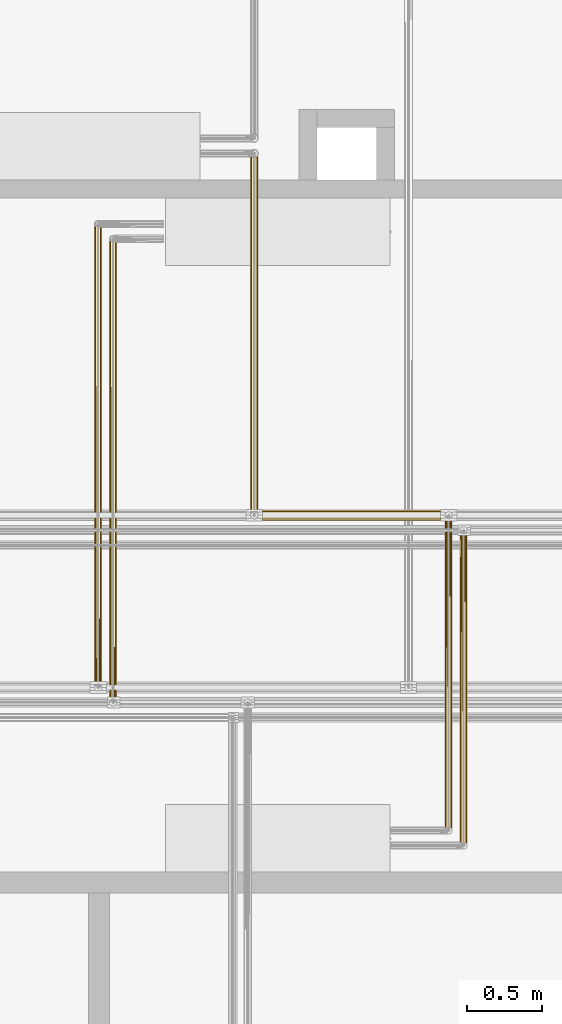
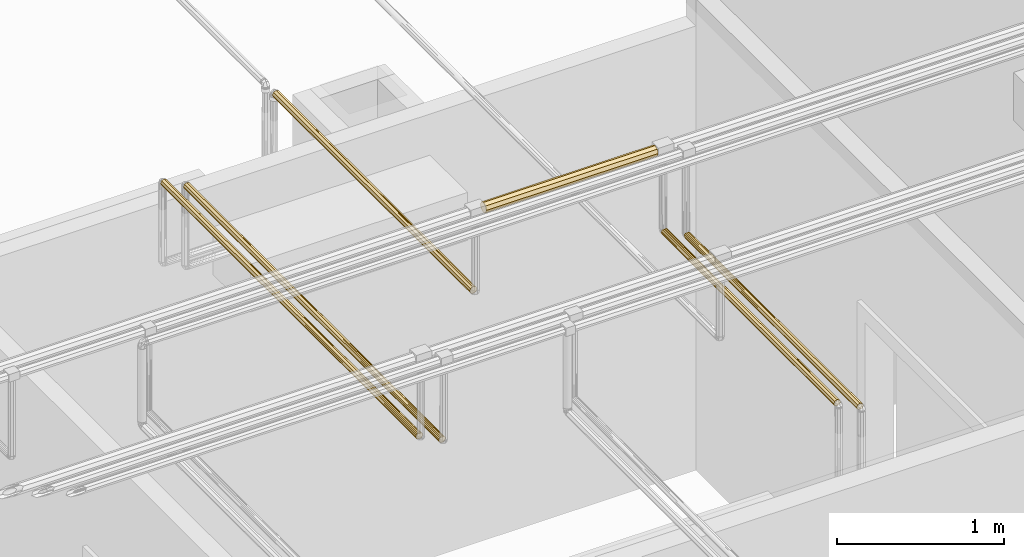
# One storey, part 93 of 652: 6 coverings.
"""IFC2X3 building model written with IfcOpenShell, lengths in millimetres."""

import ifcopenshell
import ifcopenshell.guid

model = None  # the IFC model being written
_history = None  # IfcOwnerHistory: only IFC2X3 demands one
_inside = {}  # id of a spatial element -> (the spatial element, [elements in it])
_under = {}  # id of a project, library or spatial element -> (it, [spatial elements below it])
_declared = {}  # id of a project -> (the project, [libraries it declares])
_typed = {}  # id of a type object -> (the type object, [elements of that type])
_made_of = {}  # id of a material, layer set ... -> (it, [elements and type objects made of it])


def new_model(schema):
    """Start an empty IFC model of exactly this schema.

    Asked for "IFC4X3", IfcOpenShell would pick the latest addendum, in which some entities
    have other attributes; the version numbers below select the first issue.
    IFC2X3 requires an IfcOwnerHistory on every rooted entity: one is made here for all.
    """
    global model, _history
    if schema == "IFC4X3":
        model = ifcopenshell.file(schema_version=(4, 3, 0, 0))
    else:
        model = ifcopenshell.file(schema=schema)
    _inside.clear()
    _under.clear()
    _declared.clear()
    _typed.clear()
    _made_of.clear()
    _history = None
    if model.schema == "IFC2X3":
        org = make("IfcOrganization", Name="unknown")
        user = make(
            "IfcPersonAndOrganization",
            ThePerson=make("IfcPerson", FamilyName="unknown"),
            TheOrganization=org,
        )
        app = make(
            "IfcApplication",
            ApplicationDeveloper=org,
            Version="unknown",
            ApplicationFullName="unknown",
            ApplicationIdentifier="unknown",
        )
        _history = make(
            "IfcOwnerHistory",
            OwningUser=user,
            OwningApplication=app,
            ChangeAction="ADDED",
            CreationDate=0,
        )
    return model


def make(cls, **values):
    """One entity of the class cls with the attributes given. An attribute that is None is left unset."""
    return model.create_entity(
        cls, **{name: value for name, value in values.items() if value is not None}
    )


def entity(cls, *values):
    """Any entity or typed value of the class cls, its attributes in the order of the schema. None: left unset."""
    e = model.create_entity(cls)
    for i, value in enumerate(values):
        if value is not None:
            e[i] = value
    return e


def rooted(cls, **values):
    """An entity with a GlobalId (a new one), such as an element, a storey or a relation."""
    return make(cls, GlobalId=ifcopenshell.guid.new(), OwnerHistory=_history, **values)


def si_unit(unit_type, name, prefix=None):
    """IfcSIUnit, for example si_unit("LENGTHUNIT", "METRE", prefix="MILLI")."""
    return make("IfcSIUnit", UnitType=unit_type, Prefix=prefix, Name=name)


def converted_unit(unit_type, name, factor, base, dimensions=None, offset=None):
    """IfcConversionBasedUnit, such as the inch: factor (a typed value) times the base unit."""
    return make(
        "IfcConversionBasedUnit"
        if offset is None
        else "IfcConversionBasedUnitWithOffset",
        ConversionOffset=offset,
        Dimensions=None
        if dimensions is None
        else entity("IfcDimensionalExponents", *dimensions),
        UnitType=unit_type,
        Name=name,
        ConversionFactor=make(
            "IfcMeasureWithUnit", ValueComponent=factor, UnitComponent=base
        ),
    )


def assignment(units):
    """IfcUnitAssignment: the units of a project."""
    return None if units is None else make("IfcUnitAssignment", Units=units)


def point(xyz):
    """IfcCartesianPoint."""
    return None if xyz is None else make("IfcCartesianPoint", Coordinates=xyz)


def direction(xyz):
    """IfcDirection."""
    return None if xyz is None else make("IfcDirection", DirectionRatios=xyz)


def frame(location, z_axis=None, x_axis=None):
    """IfcAxis2Placement3D, a coordinate frame: its origin and axes. An axis left out is left unset."""
    return make(
        "IfcAxis2Placement3D",
        Location=point(location),
        Axis=direction(z_axis),
        RefDirection=direction(x_axis),
    )


def origin():
    """The frame at (0, 0, 0) with its axes left unset."""
    return frame((0.0, 0.0, 0.0))


def place(relative_to, where):
    """IfcLocalPlacement: puts the frame where relative to a parent placement (None: the world)."""
    return make(
        "IfcLocalPlacement", PlacementRelTo=relative_to, RelativePlacement=where
    )


def context(
    kind, dimensions, precision=None, world=None, true_north=None, identifier=None
):
    """IfcGeometricRepresentationContext, for example the 3D "Model" context."""
    return make(
        "IfcGeometricRepresentationContext",
        ContextIdentifier=identifier,
        ContextType=kind,
        CoordinateSpaceDimension=dimensions,
        Precision=precision,
        WorldCoordinateSystem=world,
        TrueNorth=true_north,
    )


def subcontext(parent, identifier, kind, view, scale=None):
    """IfcGeometricRepresentationSubContext, for example "Body" below "Model"."""
    return make(
        "IfcGeometricRepresentationSubContext",
        ContextIdentifier=identifier,
        ContextType=kind,
        ParentContext=parent,
        TargetScale=scale,
        TargetView=view,
    )


def project(units=None, contexts=None):
    """IfcProject with its units and contexts."""
    return rooted(
        "IfcProject",
        Name="project",
        RepresentationContexts=contexts,
        UnitsInContext=assignment(units),
    )


def spatial(cls, under=None, at=None, **own):
    """A site, building, storey or space (cls), placed at a placement, below another one or the project."""
    s = rooted(cls, ObjectPlacement=at, **own)
    if under is not None:
        _under.setdefault(under.id(), (under, []))[1].append(s)
    return s


def faces_of(points, faces, orient=None, outer=None):
    """IfcFace entities. A face is a list of loops; a loop is a list of indices into points, from 0.

    orient and outer hold one flag for each loop. By default every Orientation is true, the
    first loop of a face is its IfcFaceOuterBound and the others are IfcFaceBound.
    """
    made = []
    for i, loops in enumerate(faces):
        bounds = []
        for j, loop in enumerate(loops):
            is_outer = j == 0 if outer is None else outer[i][j]
            bounds.append(
                make(
                    "IfcFaceOuterBound" if is_outer else "IfcFaceBound",
                    Bound=make("IfcPolyLoop", Polygon=[points[k] for k in loop]),
                    Orientation=True if orient is None else orient[i][j],
                )
            )
        made.append(make("IfcFace", Bounds=bounds))
    return made


def faceted_brep(points, faces, orient=None, outer=None, voids=None):
    """IfcFacetedBrep: a solid bounded by flat faces; with voids (closed shells), ...WithVoids."""
    shared = [point(p) for p in points]
    hull = make("IfcClosedShell", CfsFaces=faces_of(shared, faces, orient, outer))
    if voids is None:
        return make("IfcFacetedBrep", Outer=hull)
    return make(
        "IfcFacetedBrepWithVoids",
        Outer=hull,
        Voids=[
            make(cls, CfsFaces=faces_of(shared, fs, o, b)) for cls, fs, o, b in voids
        ],
    )


def shape(context_of_items, identifier, shape_type, items):
    """IfcShapeRepresentation: the items that make up one representation, for example the "Body"."""
    return make(
        "IfcShapeRepresentation",
        ContextOfItems=context_of_items,
        RepresentationIdentifier=identifier,
        RepresentationType=shape_type,
        Items=items,
    )


def material(Name=None, Category=None):
    """IfcMaterial."""
    return make("IfcMaterial", Name=Name, Category=Category)


def made_of(thing, what):
    """Note that an element or type object is made of a material, layer set ...; save() writes the relation."""
    if what is not None:
        _made_of.setdefault(what.id(), (what, []))[1].append(thing)
    return thing


def type_object(cls, material=None, **own):
    """A type object (cls), such as IfcWallType, which elements share."""
    return made_of(rooted(cls, **own), material)


def element(
    cls,
    number,
    at=None,
    inside=None,
    cuts=None,
    type_object=None,
    material=None,
    context=None,
    identifier="Body",
    shape_type=None,
    held_by="IfcProductDefinitionShape",
    body=None,
    shapes=None,
    **own,
):
    """One element of the class cls, such as IfcWall. Its Tag is "e" and its number.

    at: its placement. inside: the storey or other place that contains it. cuts: it is an
    opening in that element (IfcRelVoidsElement). A single representation is given by context,
    identifier, shape_type and body (its items); several are given by shapes. held_by: the class
    of the entity that holds the representations. save() writes the other relations.
    """
    e = rooted(cls, Tag="e%d" % number, ObjectPlacement=at, **own)
    if body is not None:
        shapes = [shape(context, identifier, shape_type, body)]
    if shapes is not None:
        e.Representation = make(held_by, Representations=shapes)
    if inside is not None:
        _inside.setdefault(inside.id(), (inside, []))[1].append(e)
    if cuts is not None:
        rooted(
            "IfcRelVoidsElement", RelatingBuildingElement=cuts, RelatedOpeningElement=e
        )
    if type_object is not None:
        _typed.setdefault(type_object.id(), (type_object, []))[1].append(e)
    return made_of(e, material)


def aggregate(whole, parts):
    """IfcRelAggregates: a whole, such as a stair, and the parts it consists of."""
    return rooted("IfcRelAggregates", RelatingObject=whole, RelatedObjects=parts)


def save(model, path):
    """Write the relations noted so far, then the file.

    IfcRelAggregates (storeys below a building ...), IfcRelContainedInSpatialStructure (elements
    in a storey), IfcRelDefinesByType, IfcRelAssociatesMaterial and IfcRelDeclares: one each for
    every whole, place, type object, material and project.
    """
    for whole, parts in _under.values():
        aggregate(whole, parts)
    for where, things in _inside.values():
        rooted(
            "IfcRelContainedInSpatialStructure",
            RelatedElements=things,
            RelatingStructure=where,
        )
    for kind, things in _typed.values():
        rooted("IfcRelDefinesByType", RelatedObjects=things, RelatingType=kind)
    for what, things in _made_of.values():
        rooted("IfcRelAssociatesMaterial", RelatedObjects=things, RelatingMaterial=what)
    for by, libraries in _declared.values():
        rooted("IfcRelDeclares", RelatingContext=by, RelatedDefinitions=libraries)
    model.write(path)


model = new_model("IFC2X3")

# Units and contexts
model_context = context("Model", 3, precision=0.01, world=frame((0.0, 0.0, 308426.39999999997)), true_north=direction((6.123233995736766e-17, 1.0)))
plan_context = context("Plan", 3, precision=0.01, world=frame((0.0, 0.0, 308426.39999999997)), true_north=direction((6.123233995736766e-17, 1.0)))
body_context = subcontext(model_context, "Body", "Model", "MODEL_VIEW")
ifc_project = project(units=[si_unit("LENGTHUNIT", "METRE", prefix="MILLI"), si_unit("AREAUNIT", "SQUARE_METRE"), si_unit("VOLUMEUNIT", "CUBIC_METRE"), converted_unit("PLANEANGLEUNIT", "DEGREE", entity("IfcPlaneAngleMeasure", 0.017453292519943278), si_unit("PLANEANGLEUNIT", "RADIAN"), dimensions=[0, 0, 0, 0, 0, 0, 0])], contexts=[model_context, plan_context])

# Site, building, storey
site_placement = place(None, origin())
site = spatial("IfcSite", under=ifc_project, at=site_placement, Name="Default", CompositionType="ELEMENT")
building_placement = place(site_placement, origin())
building = spatial("IfcBuilding", under=site, at=building_placement, CompositionType="ELEMENT")
storey_placement = place(building_placement, frame((0.0, 0.0, 1730.6999999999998)))
storey = spatial("IfcBuildingStorey", under=building, at=storey_placement, Name="EG_Produktion_FFB", CompositionType="ELEMENT", Elevation=1730.6999999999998)

# Coverings
ifc_material = material(Name="Dämmung - Armaflex-Schlauch")
covering_type = type_object("IfcCoveringType", Name="Rohrdämmung außen:Armaflex-Schlauch", PredefinedType="INSULATION")
covering_1_placement = place(storey_placement, frame((28186.759683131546, 61061.94222776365, 3861.942227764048)))
element("IfcCovering", 1, at=covering_1_placement, inside=storey, type_object=covering_type, material=ifc_material, Name="Rohrdämmung außen:Armaflex-Schlauch", ObjectType="Rohrdämmung außen:Armaflex-Schlauch", PredefinedType="INSULATION", context=body_context, shape_type="Brep", body=[
    faceted_brep([(1188.793066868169, 74.52027223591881, 38.057772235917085), (1188.793066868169, 71.15292682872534, 46.18726318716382), (1188.793066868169, 69.18046274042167, 50.949212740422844), (1188.7930668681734, 66.51055799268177, 57.39493299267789), (1188.7930668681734, 63.8406532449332, 63.84065324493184), (1188.7930668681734, 57.394932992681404, 66.51055799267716), (1188.7930668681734, 50.94921274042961, 69.18046274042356), (1188.7930668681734, 44.50349248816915, 71.85036748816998), (1188.7930668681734, 38.057772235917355, 74.52027223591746), (1188.7930668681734, 29.928281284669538, 71.15292682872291), (1188.7930668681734, 25.166331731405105, 69.18046274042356), (1188.7930668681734, 18.72061147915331, 66.51055799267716), (1188.7930668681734, 12.274891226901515, 63.84065324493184), (1188.7930668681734, 9.604986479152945, 57.39493299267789), (1188.7930668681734, 6.935081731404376, 50.949212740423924), (1188.7930668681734, 4.265176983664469, 44.50349248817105), (1188.793066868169, 1.5952722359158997, 38.057772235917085), (1188.7930668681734, 4.265176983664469, 31.612051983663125), (1188.793066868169, 6.935081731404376, 25.166331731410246), (1188.7930668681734, 9.604986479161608, 18.72061147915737), (1188.793066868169, 12.274891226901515, 12.274891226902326), (1188.793066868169, 18.72061147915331, 9.604986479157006), (1188.7930668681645, 25.166331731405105, 6.935081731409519), (1188.793066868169, 31.612051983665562, 4.265176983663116), (1188.793066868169, 38.057772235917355, 1.595272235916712), (1188.793066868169, 46.1872631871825, 4.962617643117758), (1188.793066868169, 50.94921274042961, 6.935081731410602), (1188.7930668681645, 57.394932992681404, 9.604986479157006), (1188.793066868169, 63.8406532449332, 12.274891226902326), (1188.793066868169, 66.51055799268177, 18.720611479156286), (1188.793066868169, 69.18046274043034, 25.166331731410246), (1188.7930668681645, 71.85036748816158, 31.612051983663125), (0.0, 57.39493299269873, 9.60498647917), (0.0, 50.94921274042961, 6.935081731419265), (0.0, 44.50349248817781, 4.265176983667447), (0.0, 38.057772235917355, 1.5952722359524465), (0.0, 29.9282812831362, 4.962617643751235), (0.0, 21.798790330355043, 8.32996305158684), (0.0, 12.274891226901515, 12.274891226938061), (0.0, 9.604986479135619, 18.720611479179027), (0.0, 6.935081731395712, 25.166331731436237), (0.0, 4.265176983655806, 31.612051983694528), (0.0, 1.5952722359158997, 38.05777223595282), (0.0, 4.962617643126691, 46.18726318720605), (0.0, 8.32996305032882, 54.3167541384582), (0.0, 12.274891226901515, 63.84065324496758), (0.0, 18.720611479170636, 66.51055799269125), (0.0, 25.166331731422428, 69.18046274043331), (0.0, 31.612051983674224, 71.8503674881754), (0.0, 38.057772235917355, 74.5202722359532), (0.0, 46.187263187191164, 71.15292682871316), (0.0, 54.316754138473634, 67.78558142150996), (0.0, 63.8406532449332, 63.84065324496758), (0.0, 66.51055799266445, 57.394932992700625), (0.0, 69.180462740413, 50.949212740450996), (0.0, 71.85036748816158, 44.50349248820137), (0.0, 74.52027223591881, 38.05777223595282), (0.0, 71.15292682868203, 29.928281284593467), (0.0, 67.78558142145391, 21.798790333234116), (0.0, 63.8406532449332, 12.274891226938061)], [[[0, 1, 2, 3, 4, 5, 6, 7, 8, 9, 10, 11, 12, 13, 14, 15, 16, 17, 18, 19, 20, 21, 22, 23, 24, 25, 26, 27, 28, 29, 30, 31]], [[32, 33, 34, 35, 36, 37, 38, 39, 40, 41, 42, 43, 44, 45, 46, 47, 48, 49, 50, 51, 52, 53, 54, 55, 56, 57, 58, 59]], [[40, 39, 38, 20, 19, 18, 17, 16, 42, 41]], [[38, 37, 36, 35, 24, 23, 22, 21, 20]], [[56, 0, 31, 30, 29, 28, 59, 58, 57]], [[27, 26, 25, 24, 35, 34, 33, 32, 59, 28]], [[49, 8, 7, 6, 5, 4, 52, 51, 50]], [[3, 2, 1, 0, 56, 55, 54, 53, 52, 4]], [[42, 16, 15, 14, 13, 12, 45, 44, 43]], [[11, 10, 9, 8, 49, 48, 47, 46, 45, 12]]]),
])
covering_2_placement = place(storey_placement, frame((29504.64222776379, 58911.64206831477, 3274.6422277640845)))
element("IfcCovering", 2, at=covering_2_placement, inside=storey, type_object=covering_type, material=ifc_material, Name="Rohrdämmung außen:Armaflex-Schlauch", ObjectType="Rohrdämmung außen:Armaflex-Schlauch", PredefinedType="INSULATION", context=body_context, shape_type="Brep", body=[
    faceted_brep([(40.92841548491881, 2070.4076816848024, 43.30802223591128), (43.95116498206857, 2070.4076816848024, 39.26743877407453), (46.97391447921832, 2070.4076816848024, 35.2268553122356), (48.04709335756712, 2070.4076816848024, 30.292313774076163), (49.12027223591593, 2070.4076816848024, 25.35777223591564), (47.38030345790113, 2070.4076816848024, 21.157116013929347), (45.64033467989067, 2070.4076816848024, 16.956459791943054), (43.900365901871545, 2070.4076816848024, 12.755803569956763), (42.16039712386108, 2070.4076816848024, 8.55514734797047), (37.95974090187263, 2070.4076816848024, 6.8151785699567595), (33.759084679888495, 2070.4076816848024, 5.075209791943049), (29.55842845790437, 2070.407681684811, 3.335241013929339), (25.357772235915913, 2070.4076816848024, 1.595272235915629), (21.157116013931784, 2070.4076816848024, 3.335241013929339), (16.956459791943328, 2070.4076816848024, 5.075209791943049), (12.755803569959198, 2070.4076816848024, 6.8151785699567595), (8.55514734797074, 2070.4076816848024, 8.55514734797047), (6.815178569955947, 2070.4076816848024, 12.755803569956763), (5.0752097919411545, 2070.4076816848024, 16.956459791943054), (3.6312420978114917, 2070.4076816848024, 20.44250618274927), (1.5952722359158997, 2070.4076816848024, 25.35777223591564), (2.6684511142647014, 2070.4076816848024, 30.292313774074), (3.7416299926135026, 2070.4076816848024, 35.22685531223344), (6.764379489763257, 2070.4076816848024, 39.26743877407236), (9.787128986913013, 2070.4076816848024, 43.30802223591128), (9.787128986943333, 1.5952722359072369, 7.407522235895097), (40.92841548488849, 1.5952722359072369, 7.407522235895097), (43.95116498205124, 1.5952722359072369, 11.448105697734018), (46.97391447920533, 1.5952722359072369, 15.488689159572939), (48.047093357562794, 1.5952722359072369, 20.423230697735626), (49.12027223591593, 1.5952722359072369, 25.357772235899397), (47.08430237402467, 1.5952722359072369, 30.273038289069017), (45.64033467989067, 1.5952722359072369, 33.75908467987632), (43.90036590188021, 1.5952722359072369, 37.95974090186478), (42.16039712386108, 1.5952722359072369, 42.16039712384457), (37.95974090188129, 1.5952722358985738, 43.90036590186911), (33.75908467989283, 1.5952722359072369, 45.6403346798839), (29.55842845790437, 1.5952722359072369, 47.38030345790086), (25.357772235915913, 1.5952722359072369, 49.120272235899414), (21.157116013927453, 1.5952722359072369, 47.38030345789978), (16.956459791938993, 1.5952722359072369, 45.6403346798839), (12.755803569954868, 1.5952722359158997, 43.90036590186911), (8.55514734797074, 1.5952722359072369, 42.16039712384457), (6.815178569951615, 1.5952722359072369, 37.95974090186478), (5.0752097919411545, 1.5952722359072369, 33.75908467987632), (3.3352410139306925, 1.5952722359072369, 29.558428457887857), (1.5952722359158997, 1.5952722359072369, 25.357772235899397), (2.6684511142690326, 1.5952722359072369, 20.423230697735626), (3.7416299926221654, 1.5952722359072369, 15.488689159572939), (6.764379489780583, 1.5952722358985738, 11.448105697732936), (33.667814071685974, 5.907088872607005, 3.0957055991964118), (37.2981147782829, 3.7511805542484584, 5.251613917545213), (29.512793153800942, 6.65730555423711, 2.345488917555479), (25.357772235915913, 7.40752223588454, 1.595272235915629), (21.20275131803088, 6.657305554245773, 2.345488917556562), (17.04773040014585, 5.907088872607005, 3.0957055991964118), (13.417429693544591, 3.7511805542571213, 5.251613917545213), (21.20275131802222, 2065.3456483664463, 48.370055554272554), (13.417429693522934, 2068.2517733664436, 45.46393055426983), (17.047730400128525, 2066.095865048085, 47.61983887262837), (25.357772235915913, 2064.5954316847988, 49.12027223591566), (29.512793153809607, 2065.3456483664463, 48.370055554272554), (33.6678140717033, 2066.095865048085, 47.61983887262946), (37.29811477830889, 2068.2517733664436, 45.46393055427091)], [[[0, 1, 2, 3, 4, 5, 6, 7, 8, 9, 10, 11, 12, 13, 14, 15, 16, 17, 18, 19, 20, 21, 22, 23, 24]], [[25, 26, 27, 28, 29, 30, 31, 32, 33, 34, 35, 36, 37, 38, 39, 40, 41, 42, 43, 44, 45, 46, 47, 48, 49]], [[30, 5, 4]], [[10, 50, 11]], [[5, 30, 29]], [[29, 6, 5]], [[26, 8, 27]], [[9, 26, 51]], [[51, 50, 10]], [[52, 53, 12]], [[28, 27, 7]], [[27, 8, 7]], [[28, 7, 6]], [[11, 50, 52]], [[8, 26, 9]], [[29, 28, 6]], [[51, 10, 9]], [[52, 12, 11]], [[53, 54, 12]], [[46, 20, 47]], [[13, 54, 55]], [[48, 17, 49]], [[56, 14, 55]], [[16, 25, 49]], [[48, 47, 18]], [[18, 47, 20, 19]], [[12, 54, 13]], [[49, 17, 16]], [[48, 18, 17]], [[14, 56, 15]], [[25, 15, 56]], [[13, 55, 14]], [[15, 25, 16]], [[23, 43, 42]], [[46, 45, 20]], [[44, 22, 21]], [[44, 43, 22]], [[38, 57, 39]], [[24, 41, 58]], [[59, 40, 39]], [[21, 45, 44]], [[40, 59, 58]], [[22, 43, 23]], [[57, 59, 39]], [[20, 45, 21]], [[42, 24, 23]], [[60, 57, 38]], [[41, 24, 42]], [[41, 40, 58]], [[38, 61, 60]], [[3, 32, 31, 30]], [[61, 38, 37]], [[62, 36, 63]], [[1, 34, 33]], [[34, 1, 0]], [[32, 3, 2]], [[0, 35, 34]], [[36, 62, 37]], [[0, 63, 35]], [[33, 2, 1]], [[33, 32, 2]], [[37, 62, 61]], [[30, 4, 3]], [[63, 36, 35]], [[0, 24, 58, 59, 57, 60, 61, 62, 63]], [[26, 25, 56, 55, 54, 53, 52, 50, 51]]]),
])
covering_3_placement = place(storey_placement, frame((27164.642227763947, 59866.35497775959, 3274.6422277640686)))
element("IfcCovering", 3, at=covering_3_placement, inside=storey, type_object=covering_type, material=ifc_material, Name="Rohrdämmung außen:Armaflex-Schlauch", ObjectType="Rohrdämmung außen:Armaflex-Schlauch", PredefinedType="INSULATION", context=body_context, shape_type="Brep", body=[
    faceted_brep([(3.7416299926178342, 1.5952722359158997, 35.22685531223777), (2.6684511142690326, 1.5952722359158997, 30.29231377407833), (1.5952722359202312, 1.5952722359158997, 25.357772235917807), (3.335241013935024, 1.5952722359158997, 21.157116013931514), (5.075209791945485, 1.5952722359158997, 16.95645979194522), (6.81517856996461, 1.5952722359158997, 12.755803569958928), (8.55514734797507, 1.5952722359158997, 8.555147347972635), (12.75580356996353, 1.5952722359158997, 6.815178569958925), (16.95645979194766, 1.5952722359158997, 5.075209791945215), (21.157116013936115, 1.5952722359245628, 3.3352410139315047), (25.357772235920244, 1.5952722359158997, 1.5952722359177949), (29.55842845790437, 1.5952722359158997, 3.3352410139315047), (33.75908467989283, 1.5952722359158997, 5.075209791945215), (37.959740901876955, 1.5952722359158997, 6.815178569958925), (42.160397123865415, 1.5952722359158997, 8.555147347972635), (43.90036590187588, 1.5952722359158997, 12.755803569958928), (45.640334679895, 1.5952722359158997, 16.95645979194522), (47.743512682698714, 1.5952722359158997, 22.03398065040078), (49.120272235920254, 1.5952722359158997, 25.357772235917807), (48.047093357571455, 1.5952722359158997, 30.292313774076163), (46.97391447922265, 1.5952722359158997, 35.2268553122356), (43.951164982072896, 1.5952722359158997, 39.26743877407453), (40.92841548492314, 1.5952722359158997, 43.30802223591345), (9.787128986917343, 1.5952722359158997, 43.30802223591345), (6.764379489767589, 1.5952722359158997, 39.26743877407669), (1.5952722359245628, 3060.981862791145, 25.357772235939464), (2.972031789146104, 3060.981862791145, 28.681563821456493), (5.075209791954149, 3060.981862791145, 33.759084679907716), (6.8151785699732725, 3060.981862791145, 37.95974090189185), (8.555147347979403, 3060.981862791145, 42.160397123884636), (12.755803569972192, 3060.981862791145, 43.90036590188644), (16.95645979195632, 3060.981862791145, 45.640334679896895), (21.15711601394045, 3060.981862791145, 47.38030345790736), (25.357772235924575, 3060.981862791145, 49.120272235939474), (29.55842845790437, 3060.981862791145, 47.38030345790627), (33.759084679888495, 3060.981862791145, 45.64033467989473), (37.95974090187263, 3060.9818627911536, 43.900365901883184), (42.16039712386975, 3060.981862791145, 42.160397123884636), (43.900365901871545, 3060.981862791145, 37.959740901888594), (45.64033467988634, 3060.981862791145, 33.759084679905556), (47.38030345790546, 3060.981862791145, 29.55842845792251), (49.12027223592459, 3060.981862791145, 25.357772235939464), (48.04709335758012, 3060.981862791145, 20.42323069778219), (46.973914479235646, 3060.981862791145, 15.488689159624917), (43.951164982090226, 3060.981862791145, 11.448105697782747), (40.9284154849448, 3060.981862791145, 7.407522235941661), (9.787128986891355, 3060.981862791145, 7.407522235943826), (6.764379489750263, 3060.981862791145, 11.44810569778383), (3.7416299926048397, 3060.981862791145, 15.488689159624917), (2.6684511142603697, 3060.981862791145, 20.423230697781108), (17.04773040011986, 3056.6700461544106, 3.0957055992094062), (13.41742969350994, 3058.8259544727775, 5.251613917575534), (21.20275131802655, 3055.9198294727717, 2.3454889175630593), (25.357772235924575, 3055.1696127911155, 1.5952722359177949), (29.5127931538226, 3055.919829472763, 2.345488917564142), (33.667814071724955, 3056.6700461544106, 3.0957055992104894), (37.29811477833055, 3058.8259544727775, 5.251613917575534), (29.512793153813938, 6.657305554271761, 48.37005555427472), (37.29811477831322, 3.751180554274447, 45.46393055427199), (33.66781407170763, 5.907088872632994, 47.61983887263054), (25.357772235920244, 7.407522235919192, 49.12027223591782), (21.20275131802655, 6.657305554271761, 48.37005555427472), (17.047730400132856, 5.907088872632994, 47.619838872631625), (13.417429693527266, 3.751180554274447, 45.46393055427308)], [[[0, 1, 2, 3, 4, 5, 6, 7, 8, 9, 10, 11, 12, 13, 14, 15, 16, 17, 18, 19, 20, 21, 22, 23, 24]], [[25, 26, 27, 28, 29, 30, 31, 32, 33, 34, 35, 36, 37, 38, 39, 40, 41, 42, 43, 44, 45, 46, 47, 48, 49]], [[25, 3, 2]], [[8, 50, 9]], [[3, 25, 49]], [[49, 4, 3]], [[46, 6, 47]], [[7, 46, 51]], [[51, 50, 8]], [[52, 53, 10]], [[48, 47, 5]], [[47, 6, 5]], [[48, 5, 4]], [[9, 50, 52]], [[6, 46, 7]], [[49, 48, 4]], [[51, 8, 7]], [[52, 10, 9]], [[53, 54, 10]], [[42, 41, 17]], [[11, 54, 55]], [[43, 15, 44]], [[56, 12, 55]], [[14, 45, 44]], [[43, 42, 16]], [[16, 42, 17]], [[10, 54, 11]], [[44, 15, 14]], [[41, 18, 17]], [[43, 16, 15]], [[12, 56, 13]], [[45, 13, 56]], [[11, 55, 12]], [[13, 45, 14]], [[21, 38, 37]], [[41, 40, 18]], [[39, 20, 19]], [[39, 38, 20]], [[33, 57, 34]], [[22, 36, 58]], [[59, 35, 34]], [[19, 40, 39]], [[35, 59, 58]], [[20, 38, 21]], [[57, 59, 34]], [[18, 40, 19]], [[37, 22, 21]], [[60, 57, 33]], [[36, 22, 37]], [[36, 35, 58]], [[33, 61, 60]], [[1, 27, 26]], [[61, 33, 32]], [[62, 31, 63]], [[24, 29, 28]], [[29, 24, 23]], [[27, 1, 0]], [[23, 30, 29]], [[31, 62, 32]], [[26, 2, 1]], [[23, 63, 30]], [[28, 0, 24]], [[28, 27, 0]], [[32, 62, 61]], [[26, 25, 2]], [[63, 31, 30]], [[59, 57, 60, 61, 62, 63, 23, 22, 58]], [[45, 56, 55, 54, 53, 52, 50, 51, 46]]]),
])
covering_4_placement = place(storey_placement, frame((29404.64222776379, 59011.6420683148, 3274.6422277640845)))
element("IfcCovering", 4, at=covering_4_placement, inside=storey, type_object=covering_type, material=ifc_material, Name="Rohrdämmung außen:Armaflex-Schlauch", ObjectType="Rohrdämmung außen:Armaflex-Schlauch", PredefinedType="INSULATION", context=body_context, shape_type="Brep", body=[
    faceted_brep([(40.92841548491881, 2070.4076816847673, 43.30802223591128), (43.951164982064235, 2070.4076816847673, 39.26743877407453), (46.97391447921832, 2070.4076816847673, 35.2268553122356), (48.04709335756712, 2070.4076816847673, 30.292313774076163), (49.12027223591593, 2070.4076816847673, 25.35777223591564), (47.38030345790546, 2070.4076816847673, 21.157116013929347), (45.64033467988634, 2070.4076816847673, 16.956459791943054), (43.90036590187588, 2070.4076816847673, 12.755803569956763), (42.16039712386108, 2070.4076816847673, 8.55514734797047), (37.95974090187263, 2070.4076816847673, 6.8151785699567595), (33.759084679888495, 2070.4076816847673, 5.075209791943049), (29.55842845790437, 2070.4076816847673, 3.335241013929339), (25.357772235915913, 2070.4076816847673, 1.595272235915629), (21.157116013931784, 2070.4076816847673, 3.335241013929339), (16.956459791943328, 2070.4076816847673, 5.075209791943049), (12.755803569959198, 2070.4076816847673, 6.8151785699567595), (8.55514734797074, 2070.4076816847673, 8.55514734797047), (6.815178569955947, 2070.4076816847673, 12.755803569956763), (5.075209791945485, 2070.4076816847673, 16.956459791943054), (3.63124209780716, 2070.4076816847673, 20.442506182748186), (1.5952722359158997, 2070.4076816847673, 25.35777223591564), (2.6684511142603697, 2070.4076816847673, 30.29231377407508), (3.7416299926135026, 2070.4076816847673, 35.22685531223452), (6.764379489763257, 2070.4076816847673, 39.26743877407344), (9.787128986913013, 2070.4076816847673, 43.30802223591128), (9.787128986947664, 1.5952722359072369, 7.407522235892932), (40.92841548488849, 1.5952722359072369, 7.407522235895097), (43.95116498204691, 1.5952722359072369, 11.448105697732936), (46.97391447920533, 1.5952722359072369, 15.488689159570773), (48.047093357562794, 1.5952722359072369, 20.423230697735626), (49.12027223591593, 1.5952722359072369, 25.357772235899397), (47.08430237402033, 1.5952722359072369, 30.273038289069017), (45.640334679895, 1.5952722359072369, 33.75908467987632), (43.90036590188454, 1.5952722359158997, 37.95974090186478), (42.16039712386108, 1.5952722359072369, 42.16039712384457), (37.95974090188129, 1.5952722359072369, 43.90036590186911), (33.75908467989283, 1.5952722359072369, 45.6403346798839), (29.55842845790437, 1.5952722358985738, 47.38030345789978), (25.357772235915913, 1.5952722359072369, 49.120272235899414), (21.157116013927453, 1.5952722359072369, 47.38030345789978), (16.956459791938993, 1.5952722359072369, 45.6403346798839), (12.755803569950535, 1.5952722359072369, 43.90036590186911), (8.55514734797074, 1.5952722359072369, 42.16039712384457), (6.815178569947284, 1.5952722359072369, 37.95974090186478), (5.075209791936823, 1.5952722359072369, 33.75908467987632), (3.3352410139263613, 1.5952722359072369, 29.558428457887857), (1.5952722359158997, 1.5952722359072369, 25.357772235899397), (2.6684511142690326, 1.5952722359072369, 20.423230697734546), (3.741629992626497, 1.5952722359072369, 15.488689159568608), (6.764379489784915, 1.5952722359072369, 11.44810569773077), (33.667814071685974, 5.907088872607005, 3.0957055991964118), (37.298114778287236, 3.7511805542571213, 5.251613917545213), (29.512793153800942, 6.657305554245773, 2.345488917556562), (25.357772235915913, 7.40752223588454, 1.595272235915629), (21.20275131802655, 6.65730555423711, 2.345488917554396), (17.04773040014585, 5.907088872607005, 3.095705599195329), (13.417429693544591, 3.7511805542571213, 5.251613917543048), (21.202751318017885, 2065.3456483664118, 48.370055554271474), (13.417429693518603, 2068.251773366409, 45.46393055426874), (17.047730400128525, 2066.0958650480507, 47.61983887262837), (25.357772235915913, 2064.595431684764, 49.12027223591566), (29.512793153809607, 2065.3456483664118, 48.370055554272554), (33.6678140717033, 2066.0958650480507, 47.61983887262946), (37.29811477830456, 2068.251773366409, 45.46393055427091)], [[[0, 1, 2, 3, 4, 5, 6, 7, 8, 9, 10, 11, 12, 13, 14, 15, 16, 17, 18, 19, 20, 21, 22, 23, 24]], [[25, 26, 27, 28, 29, 30, 31, 32, 33, 34, 35, 36, 37, 38, 39, 40, 41, 42, 43, 44, 45, 46, 47, 48, 49]], [[30, 5, 4]], [[10, 50, 11]], [[5, 30, 29]], [[29, 6, 5]], [[26, 8, 27]], [[9, 26, 51]], [[51, 50, 10]], [[52, 53, 12]], [[28, 27, 7]], [[27, 8, 7]], [[28, 7, 6]], [[11, 50, 52]], [[8, 26, 9]], [[29, 28, 6]], [[51, 10, 9]], [[52, 12, 11]], [[53, 54, 12]], [[46, 20, 47]], [[13, 54, 55]], [[48, 17, 49]], [[56, 14, 55]], [[16, 25, 49]], [[48, 47, 18]], [[18, 47, 20, 19]], [[12, 54, 13]], [[49, 17, 16]], [[48, 18, 17]], [[14, 56, 15]], [[25, 15, 56]], [[13, 55, 14]], [[15, 25, 16]], [[23, 43, 42]], [[46, 45, 20]], [[44, 22, 21]], [[44, 43, 22]], [[38, 57, 39]], [[24, 41, 58]], [[59, 40, 39]], [[21, 45, 44]], [[40, 59, 58]], [[22, 43, 23]], [[57, 59, 39]], [[20, 45, 21]], [[42, 24, 23]], [[60, 57, 38]], [[41, 24, 42]], [[41, 40, 58]], [[38, 61, 60]], [[3, 32, 31, 30]], [[61, 38, 37]], [[62, 36, 63]], [[1, 34, 33]], [[34, 1, 0]], [[32, 3, 2]], [[0, 35, 34]], [[36, 62, 37]], [[0, 63, 35]], [[33, 2, 1]], [[33, 32, 2]], [[37, 62, 61]], [[30, 4, 3]], [[63, 36, 35]], [[0, 24, 58, 59, 57, 60, 61, 62, 63]], [[50, 51, 26, 25, 56, 55, 54, 53, 52]]]),
])
covering_5_placement = place(storey_placement, frame((27064.64222776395, 59966.35497775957, 3274.6422277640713)))
element("IfcCovering", 5, at=covering_5_placement, inside=storey, type_object=covering_type, material=ifc_material, Name="Rohrdämmung außen:Armaflex-Schlauch", ObjectType="Rohrdämmung außen:Armaflex-Schlauch", PredefinedType="INSULATION", context=body_context, shape_type="Brep", body=[
    faceted_brep([(46.97391447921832, 1.5952722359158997, 35.22685531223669), (43.95116498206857, 1.5952722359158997, 39.26743877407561), (40.92841548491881, 1.5952722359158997, 43.30802223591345), (9.787128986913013, 1.5952722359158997, 43.30802223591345), (6.764379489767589, 1.5952722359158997, 39.26743877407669), (3.7416299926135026, 1.5952722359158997, 35.22685531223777), (2.6684511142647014, 1.5952722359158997, 30.29231377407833), (1.5952722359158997, 1.5952722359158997, 25.357772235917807), (3.3352410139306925, 1.5952722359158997, 21.157116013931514), (5.075209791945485, 1.5952722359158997, 16.95645979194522), (6.8151785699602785, 1.5952722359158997, 12.755803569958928), (8.55514734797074, 1.5952722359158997, 8.555147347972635), (12.755803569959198, 1.5952722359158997, 6.815178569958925), (16.956459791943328, 1.5952722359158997, 5.075209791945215), (21.157116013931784, 1.5952722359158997, 3.3352410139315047), (25.357772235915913, 1.5952722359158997, 1.5952722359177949), (29.55842845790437, 1.5952722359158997, 3.3352410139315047), (33.759084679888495, 1.5952722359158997, 5.075209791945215), (37.95974090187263, 1.5952722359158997, 6.815178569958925), (42.16039712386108, 1.5952722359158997, 8.555147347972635), (43.90036590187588, 1.5952722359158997, 12.755803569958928), (45.64033467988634, 1.5952722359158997, 16.95645979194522), (47.74351268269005, 1.5952722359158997, 22.033980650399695), (49.12027223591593, 1.5952722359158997, 25.357772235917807), (48.04709335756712, 1.5952722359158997, 30.29231377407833), (46.973914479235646, 3060.981862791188, 15.48868915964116), (43.95116498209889, 3060.981862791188, 11.44810569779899), (40.928415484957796, 3060.981862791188, 7.407522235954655), (9.787128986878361, 3060.981862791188, 7.40752223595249), (6.764379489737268, 3060.981862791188, 11.448105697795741), (3.741629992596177, 3060.981862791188, 15.488689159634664), (2.668451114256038, 3060.981862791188, 20.423230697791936), (1.5952722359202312, 3060.981862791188, 25.357772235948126), (2.972031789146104, 3060.981862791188, 28.681563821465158), (5.075209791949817, 3060.9818627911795, 33.75908467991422), (6.8151785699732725, 3060.981862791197, 37.95974090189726), (8.55514734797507, 3060.981862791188, 42.1603971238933), (12.755803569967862, 3060.981862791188, 43.900365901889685), (16.95645979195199, 3060.981862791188, 45.64033467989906), (21.157116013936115, 3060.981862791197, 47.38030345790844), (25.357772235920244, 3060.981862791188, 49.12027223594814), (29.55842845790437, 3060.981862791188, 47.38030345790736), (33.75908467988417, 3060.981862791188, 45.640334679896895), (37.95974090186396, 3060.981862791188, 43.90036590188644), (42.160397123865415, 3060.981862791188, 42.1603971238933), (43.900365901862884, 3060.981862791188, 37.95974090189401), (45.64033467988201, 3060.981862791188, 33.75908467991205), (47.3803034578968, 3060.981862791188, 29.558428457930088), (49.120272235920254, 3060.981862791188, 25.357772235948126), (48.04709335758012, 3060.981862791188, 20.423230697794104), (17.047730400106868, 3056.670046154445, 3.0957055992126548), (13.417429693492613, 3058.825954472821, 5.251613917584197), (21.202751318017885, 3055.919829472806, 2.3454889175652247), (25.357772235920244, 3055.1696127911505, 1.5952722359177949), (29.512793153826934, 3055.9198294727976, 2.345488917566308), (33.66781407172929, 3056.670046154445, 3.0957055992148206), (37.29811477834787, 3058.8259544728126, 5.251613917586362), (29.512793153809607, 6.657305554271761, 48.37005555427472), (37.29811477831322, 3.751180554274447, 45.46393055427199), (33.6678140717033, 5.907088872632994, 47.61983887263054), (25.357772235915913, 7.407522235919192, 49.12027223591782), (21.20275131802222, 6.657305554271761, 48.37005555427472), (17.047730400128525, 5.907088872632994, 47.619838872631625), (13.417429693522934, 3.751180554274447, 45.46393055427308)], [[[0, 1, 2, 3, 4, 5, 6, 7, 8, 9, 10, 11, 12, 13, 14, 15, 16, 17, 18, 19, 20, 21, 22, 23, 24]], [[25, 26, 27, 28, 29, 30, 31, 32, 33, 34, 35, 36, 37, 38, 39, 40, 41, 42, 43, 44, 45, 46, 47, 48, 49]], [[32, 8, 7]], [[13, 50, 14]], [[8, 32, 31]], [[31, 9, 8]], [[28, 11, 29]], [[12, 28, 51]], [[51, 50, 13]], [[52, 53, 15]], [[30, 29, 10]], [[29, 11, 10]], [[30, 10, 9]], [[14, 50, 52]], [[11, 28, 12]], [[31, 30, 9]], [[51, 13, 12]], [[52, 15, 14]], [[53, 54, 15]], [[49, 48, 22]], [[16, 54, 55]], [[25, 20, 26]], [[56, 17, 55]], [[19, 27, 26]], [[25, 49, 21]], [[21, 49, 22]], [[15, 54, 16]], [[26, 20, 19]], [[48, 23, 22]], [[25, 21, 20]], [[17, 56, 18]], [[27, 18, 56]], [[16, 55, 17]], [[18, 27, 19]], [[1, 45, 44]], [[48, 47, 23]], [[46, 0, 24]], [[46, 45, 0]], [[40, 57, 41]], [[2, 43, 58]], [[59, 42, 41]], [[24, 47, 46]], [[42, 59, 58]], [[0, 45, 1]], [[57, 59, 41]], [[23, 47, 24]], [[44, 2, 1]], [[60, 57, 40]], [[43, 2, 44]], [[43, 42, 58]], [[40, 61, 60]], [[6, 34, 33]], [[61, 40, 39]], [[62, 38, 63]], [[4, 36, 35]], [[36, 4, 3]], [[34, 6, 5]], [[3, 37, 36]], [[38, 62, 39]], [[33, 7, 6]], [[3, 63, 37]], [[35, 5, 4]], [[35, 34, 5]], [[39, 62, 61]], [[33, 32, 7]], [[63, 38, 37]], [[59, 57, 60, 61, 62, 63, 3, 2, 58]], [[55, 54, 53, 52, 50, 51, 28, 27, 56]]]),
])
covering_6_placement = place(storey_placement, frame((28105.367160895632, 61123.371727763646, 3273.0547277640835)))
element("IfcCovering", 6, at=covering_6_placement, inside=storey, type_object=covering_type, material=ifc_material, Name="Rohrdämmung außen:Armaflex-Schlauch", ObjectType="Rohrdämmung außen:Armaflex-Schlauch", PredefinedType="INSULATION", context=body_context, shape_type="Brep", body=[
    faceted_brep([(13.501404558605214, 1.5952722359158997, 7.1639045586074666), (17.982693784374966, 1.5952722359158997, 5.307693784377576), (22.2082991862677, 1.5952722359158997, 3.5573907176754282), (26.94527223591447, 1.5952722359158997, 1.595272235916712), (31.682245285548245, 1.5952722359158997, 3.557390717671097), (35.90785068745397, 1.5952722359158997, 5.307693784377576), (40.38913991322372, 1.5952722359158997, 7.1639045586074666), (44.87042913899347, 1.5952722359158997, 9.020115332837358), (46.7266399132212, 1.5952722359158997, 13.501404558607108), (48.58285068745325, 1.5952722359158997, 17.98269378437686), (50.333153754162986, 1.5952722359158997, 22.20829918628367), (52.29527223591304, 1.5952722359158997, 26.945272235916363), (50.530738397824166, 1.5952722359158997, 31.788956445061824), (48.76620455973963, 1.5952722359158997, 36.6326406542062), (46.355127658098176, 1.5952722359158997, 43.251099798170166), (38.8451607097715, 1.5952722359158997, 47.581686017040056), (31.335193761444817, 1.5952722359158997, 51.91227223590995), (22.555350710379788, 1.5952722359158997, 51.912272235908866), (15.04538376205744, 1.5952722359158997, 47.581686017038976), (7.535416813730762, 1.5952722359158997, 43.25109979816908), (6.050380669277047, 1.5952722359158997, 39.1746429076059), (4.565344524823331, 1.5952722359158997, 35.09818601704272), (3.0803083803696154, 1.5952722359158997, 31.021729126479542), (1.5952722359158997, 1.5952722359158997, 26.945272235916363), (3.4514830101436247, 1.5952722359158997, 22.463983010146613), (5.307693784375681, 1.5952722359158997, 17.98269378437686), (7.1639045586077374, 1.5952722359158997, 13.501404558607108), (9.020115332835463, 1.5952722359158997, 9.020115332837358), (1.5952722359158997, 2366.948362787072, 26.945272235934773), (3.4514830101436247, 2366.948362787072, 31.42656146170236), (5.307693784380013, 2366.948362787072, 35.907850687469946), (7.163904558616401, 2366.948362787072, 40.38913991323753), (9.020115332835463, 2366.948362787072, 44.87042913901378), (13.501404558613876, 2366.948362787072, 46.72663991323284), (17.982693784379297, 2366.948362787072, 48.582850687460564), (22.463983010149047, 2366.9483627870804, 50.43906146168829), (26.94527223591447, 2366.948362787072, 52.295272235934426), (31.42656146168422, 2366.948362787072, 50.43906146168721), (35.90785068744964, 2366.948362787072, 48.582850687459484), (40.38913991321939, 2366.948362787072, 46.72663991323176), (44.87042913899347, 2366.948362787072, 44.87042913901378), (46.726639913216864, 2366.948362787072, 40.38913991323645), (48.582850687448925, 2366.948362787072, 35.90785068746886), (50.43906146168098, 2366.948362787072, 31.42656146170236), (52.29527223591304, 2366.948362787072, 26.945272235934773), (50.33315375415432, 2366.948362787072, 22.208299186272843), (48.37103527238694, 2366.948362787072, 17.471326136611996), (46.62073220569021, 2366.948362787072, 13.245720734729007), (44.87042913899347, 2366.948362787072, 9.020115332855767), (40.389139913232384, 2366.948362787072, 7.163904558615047), (35.9078506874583, 2366.948362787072, 5.307693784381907), (31.42656146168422, 2366.948362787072, 3.451483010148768), (26.94527223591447, 2366.948362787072, 1.5952722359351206), (22.208299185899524, 2366.948362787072, 3.557390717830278), (17.471326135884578, 2366.948362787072, 5.5195091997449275), (13.24572073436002, 2366.948362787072, 7.2698122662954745), (9.020115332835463, 2366.948362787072, 9.020115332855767), (7.163904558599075, 2366.948362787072, 13.50140455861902), (5.30769378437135, 2366.948362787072, 17.98269378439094), (3.4514830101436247, 2366.948362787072, 22.463983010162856), (29.1485708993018, 1.8823407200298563, 52.199340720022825), (26.94527223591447, 1.9782722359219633, 52.295272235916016), (24.74197357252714, 1.8823407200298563, 52.199340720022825)], [[[0, 1, 2, 3, 4, 5, 6, 7, 8, 9, 10, 11, 12, 13, 14, 15, 16, 17, 18, 19, 20, 21, 22, 23, 24, 25, 26, 27]], [[28, 29, 30, 31, 32, 33, 34, 35, 36, 37, 38, 39, 40, 41, 42, 43, 44, 45, 46, 47, 48, 49, 50, 51, 52, 53, 54, 55, 56, 57, 58, 59]], [[58, 57, 56, 27, 26, 25, 24, 23, 28, 59]], [[27, 56, 55, 54, 53, 52, 3, 2, 1, 0]], [[3, 52, 51, 50, 49, 48, 7, 6, 5, 4]], [[7, 48, 47, 46, 45, 44, 11, 10, 9, 8]], [[14, 41, 40]], [[42, 13, 12]], [[13, 42, 41]], [[11, 44, 43]], [[37, 36, 60]], [[11, 43, 12]], [[36, 61, 60]], [[43, 42, 12]], [[16, 37, 60]], [[38, 16, 15]], [[15, 40, 39, 38]], [[16, 38, 37]], [[13, 41, 14]], [[40, 15, 14]], [[35, 34, 17]], [[18, 34, 33, 32]], [[20, 30, 21]], [[36, 62, 61]], [[23, 22, 28]], [[21, 29, 22]], [[28, 22, 29]], [[30, 20, 31]], [[31, 20, 19]], [[34, 18, 17]], [[18, 32, 19]], [[62, 35, 17]], [[35, 62, 36]], [[31, 19, 32]], [[29, 21, 30]], [[62, 17, 16, 60, 61]]]),
])

save(model, "model.ifc")
